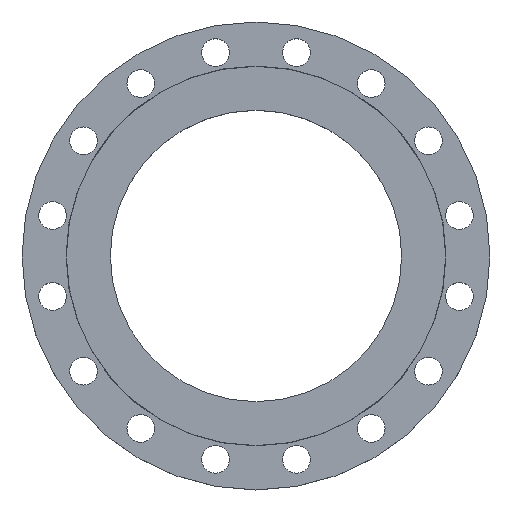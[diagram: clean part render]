
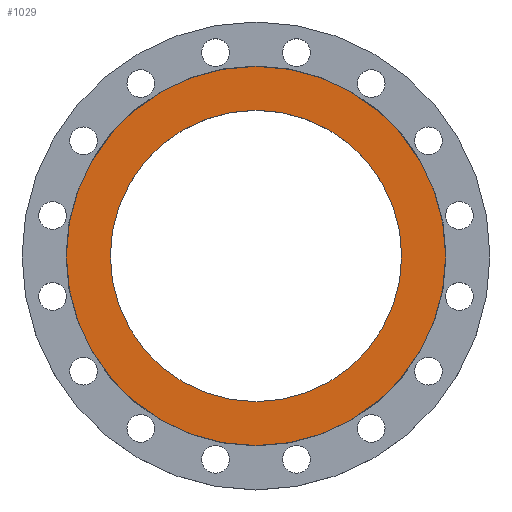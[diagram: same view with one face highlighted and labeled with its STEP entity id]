
A CAD part, top view. The second image highlights one B-rep face of the part: STEP entity #1029.
In plain terms, the highlighted planar face has unit normal (0, 0, 1).
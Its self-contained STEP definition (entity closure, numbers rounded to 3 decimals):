
#156 = AXIS2_PLACEMENT_3D ( 'NONE', #670, #668, #667 ) ;
#183 = CIRCLE ( 'NONE', #156, 267.5 ) ;
#247 = EDGE_CURVE ( 'NONE', #1422, #1095, #549, .T. ) ;
#304 = CARTESIAN_POINT ( 'NONE',  ( 205.5, 0., 0. ) ) ;
#369 = CIRCLE ( 'NONE', #397, 267.5 ) ;
#397 = AXIS2_PLACEMENT_3D ( 'NONE', #545, #544, #543 ) ;
#440 = CARTESIAN_POINT ( 'NONE',  ( -267.5, 0., 0. ) ) ;
#486 = EDGE_CURVE ( 'NONE', #1229, #1174, #183, .T. ) ;
#488 = CARTESIAN_POINT ( 'NONE',  ( 267.5, 0., 0. ) ) ;
#513 = CARTESIAN_POINT ( 'NONE',  ( -205.5, 0., 0. ) ) ;
#514 = DIRECTION ( 'NONE',  ( 1., 0., 0. ) ) ;
#515 = DIRECTION ( 'NONE',  ( 0., 0., 1. ) ) ;
#516 = CARTESIAN_POINT ( 'NONE',  ( 0., 0., 0. ) ) ;
#518 = PLANE ( 'NONE',  #1331 ) ;
#519 = FACE_OUTER_BOUND ( 'NONE', #1146, .T. ) ;
#522 = FACE_BOUND ( 'NONE', #1165, .T. ) ;
#543 = DIRECTION ( 'NONE',  ( -1., 0., 0. ) ) ;
#544 = DIRECTION ( 'NONE',  ( 0., 0., -1. ) ) ;
#545 = CARTESIAN_POINT ( 'NONE',  ( 0., 0., 0. ) ) ;
#549 = CIRCLE ( 'NONE', #553, 205.5 ) ;
#553 = AXIS2_PLACEMENT_3D ( 'NONE', #859, #858, #857 ) ;
#573 = DIRECTION ( 'NONE',  ( 1., 0., 0. ) ) ;
#574 = DIRECTION ( 'NONE',  ( 0., 0., 1. ) ) ;
#575 = CARTESIAN_POINT ( 'NONE',  ( 0., 0., 0. ) ) ;
#667 = DIRECTION ( 'NONE',  ( -1., 0., 0. ) ) ;
#668 = DIRECTION ( 'NONE',  ( 0., 0., -1. ) ) ;
#670 = CARTESIAN_POINT ( 'NONE',  ( 0., 0., 0. ) ) ;
#693 = AXIS2_PLACEMENT_3D ( 'NONE', #575, #574, #573 ) ;
#720 = CIRCLE ( 'NONE', #693, 205.5 ) ;
#842 = EDGE_CURVE ( 'NONE', #1095, #1422, #720, .T. ) ;
#857 = DIRECTION ( 'NONE',  ( 1., 0., 0. ) ) ;
#858 = DIRECTION ( 'NONE',  ( 0., 0., 1. ) ) ;
#859 = CARTESIAN_POINT ( 'NONE',  ( 0., 0., 0. ) ) ;
#889 = EDGE_CURVE ( 'NONE', #1174, #1229, #369, .T. ) ;
#1029 = ADVANCED_FACE ( 'NONE', ( #522, #519 ), #518, .T. ) ;
#1095 = VERTEX_POINT ( 'NONE', #513 ) ;
#1146 = EDGE_LOOP ( 'NONE', ( #1410, #1412 ) ) ;
#1165 = EDGE_LOOP ( 'NONE', ( #1406, #1407 ) ) ;
#1174 = VERTEX_POINT ( 'NONE', #488 ) ;
#1229 = VERTEX_POINT ( 'NONE', #440 ) ;
#1331 = AXIS2_PLACEMENT_3D ( 'NONE', #516, #515, #514 ) ;
#1406 = ORIENTED_EDGE ( 'NONE', *, *, #247, .F. ) ;
#1407 = ORIENTED_EDGE ( 'NONE', *, *, #842, .F. ) ;
#1410 = ORIENTED_EDGE ( 'NONE', *, *, #486, .F. ) ;
#1412 = ORIENTED_EDGE ( 'NONE', *, *, #889, .F. ) ;
#1422 = VERTEX_POINT ( 'NONE', #304 ) ;
